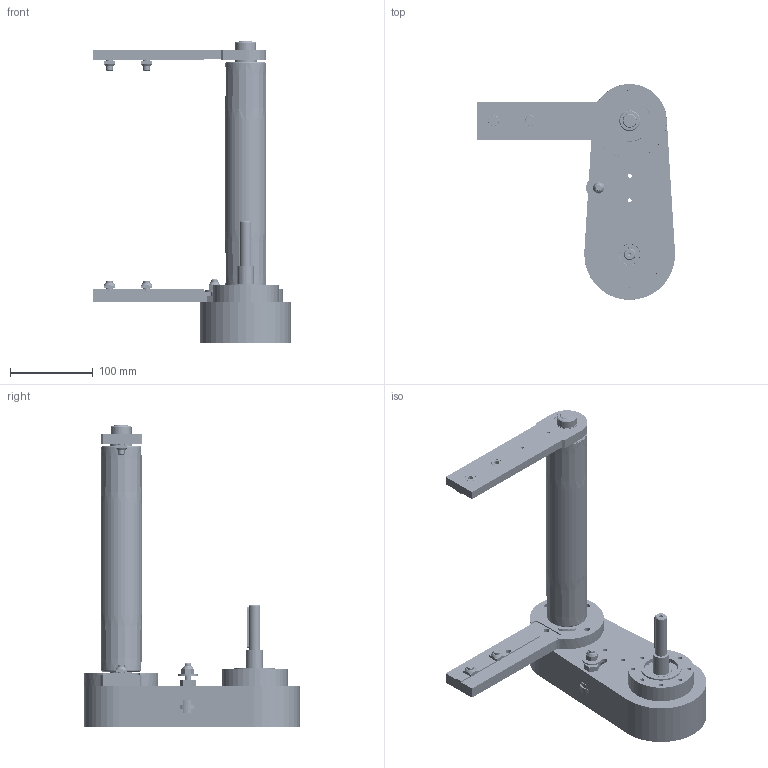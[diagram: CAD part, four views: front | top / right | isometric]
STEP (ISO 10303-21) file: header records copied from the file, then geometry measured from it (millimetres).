
FILE_DESCRIPTION (( 'STEP AP203' ), '1' );
FILE_NAME ('084.050.KTC.30.250.STEP', '2019-07-29T13:10:47', ( '' ), ( '' ), 'SwSTEP 2.0', 'SolidWorks 2018', '' );
FILE_SCHEMA (( 'CONFIG_CONTROL_DESIGN' ));
Length unit declared in the file: millimetre
Products named in the file (26): CUSCINETTI A SFERE_608-2RS; 084.809.004; RONDELLE FASCIA LARGA UNI 6593_8.4x24 UNI 6593; 084.811.004; 084.809.003; 084.813.001; CHIAVETTE_A 5x5x50 UNI 6604-69; 084.050.KTC.30.250; 084.807.002_084.807.002; 084.810.001; 084.810.004; 084.302.000 DADI ALUSIC 13x13_084.302.004; 084.813.006; 084.803.012; 084.809.001; 084.802.034_084.802.034; DADI ESAGONALI AUTOBLOCCANTI UNI 7473 INOX_M8 UNI 7473 INOX; Circlip DIN 471 - 8 x 0.8_Circlip DIN 471 - 8 x 0.8; 084.802.017_084.802.017; 084.803.014; 084.815.104_Default<A macchina>; 084.802.021; 084.810.010; 084.301.000 VITI ALUSIC_084.301.003; 084.810.005; 084.807.001_084.807.001
Assembly tree (34 placements, depth 3):
  084.050.KTC.30.250
    084.815.104_Default<A macchina>
    084.811.004
    084.813.001
    084.810.001  x2
    084.802.034_084.802.034
    084.802.017_084.802.017
    084.807.001_084.807.001
    084.807.002_084.807.002
    084.803.014  x2
    084.809.004
    084.813.006
    084.802.021
    084.803.012
    084.809.001
    084.809.003
    084.810.005
      084.810.010
      084.810.004
      CUSCINETTI A SFERE_608-2RS  x2
      Circlip DIN 471 - 8 x 0.8_Circlip DIN 471 - 8 x 0.8
      RONDELLE FASCIA LARGA UNI 6593_8.4x24 UNI 6593
      DADI ESAGONALI AUTOBLOCCANTI UNI 7473 INOX_M8 UNI 7473 INOX
    084.301.000 VITI ALUSIC_084.301.003  x4
    084.302.000 DADI ALUSIC 13x13_084.302.004  x4
    CHIAVETTE_A 5x5x50 UNI 6604-69
Bounding box: 240 x 261.5 x 366 mm (x, y, z)
Volume: 929821 mm3; surface area: 508178.2 mm2
Topology: 63 solids, 64 shells, 2916 faces, 6878 edges, 4397 vertices
Faces by surface type: cylinder 1439, plane 732, bspline 468, cone 174, torus 94, sphere 9
Entity records: 83345 total; most frequent: CARTESIAN_POINT 18784, DIRECTION 14023, ORIENTED_EDGE 12154, EDGE_CURVE 6077, AXIS2_PLACEMENT_3D 5927, VERTEX_POINT 3874, CIRCLE 3743, EDGE_LOOP 3193
